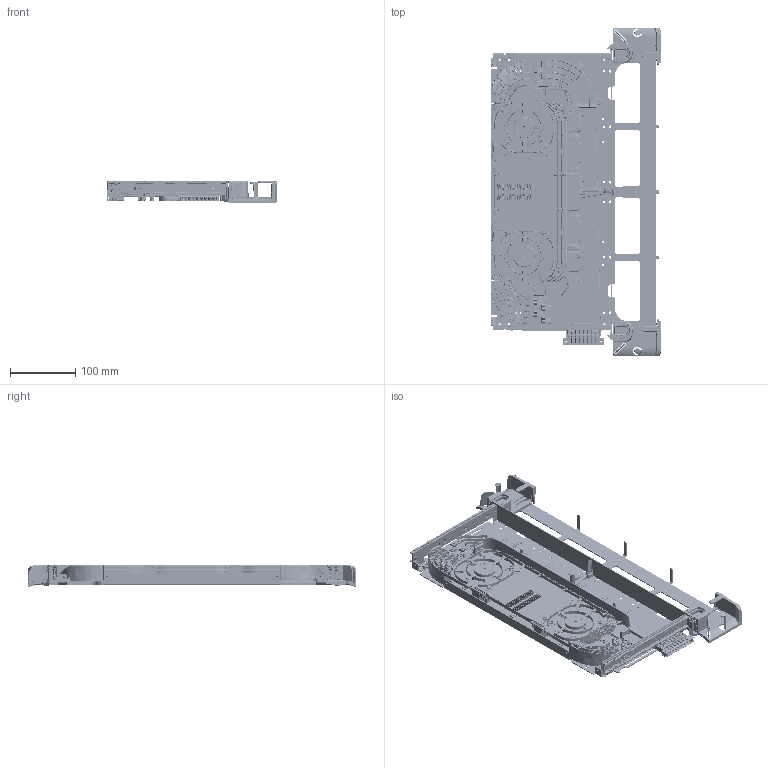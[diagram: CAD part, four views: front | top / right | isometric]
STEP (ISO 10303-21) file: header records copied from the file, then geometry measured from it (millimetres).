
FILE_DESCRIPTION(/* description */ (''),/* implementation_level */ '2;1');
FILE_NAME(/* name */ 'PRIME_FSU_ANT_Left.stp',/* time_stamp */ '2019-01-16T11:47:51+02:00',/* author */ (''),/* organization */ (''),/* preprocessor_version */ 'ST-DEVELOPER v16',/* originating_system */ 'SIEMENS PLM Software NX 11.0',/* authorisation */ '');
FILE_SCHEMA (('AUTOMOTIVE_DESIGN { 1 0 10303 214 3 1 1 1 }'));
Products named in the file (1): sata05000D84ewda
Bounding box: 261.5 x 504 x 34.1 mm (x, y, z)
Volume: 522889.5 mm3; surface area: 838336.9 mm2
Topology: 50 solids, 51 shells, 29996 faces, 79417 edges, 48117 vertices
Faces by surface type: plane 11893, cylinder 9412, bspline 4340, cone 2009, torus 1500, sphere 838, extrusion 4
Full cylindrical faces by diameter (mm): 1 x4, 1.83 x10, 2 x1, 2.2 x9, 2.5 x20, 3 x16, 3.35 x22, 3.624 x4, 3.7 x39, 4.5 x2, 4.7 x16, 4.8 x12, 5.6 x2, 6.3 x6
Entity records: 1014353 total; most frequent: CARTESIAN_POINT 293679, ORIENTED_EDGE 155104, DIRECTION 147551, EDGE_CURVE 77553, AXIS2_PLACEMENT_3D 53843, VERTEX_POINT 47946, VECTOR 39865, LINE 39861
